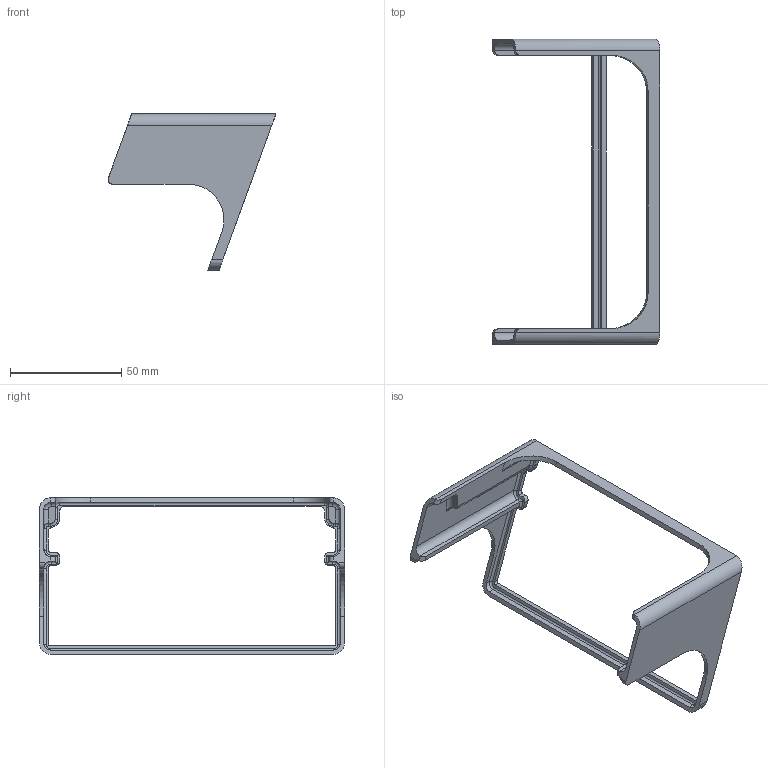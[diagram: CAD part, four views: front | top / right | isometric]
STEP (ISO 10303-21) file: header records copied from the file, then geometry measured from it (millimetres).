
FILE_DESCRIPTION (( 'STEP AP214' ), '1' );
FILE_NAME ('20_deg_enclosure_stand_taller.STEP', '2024-11-22T05:07:06', ( '' ), ( '' ), 'SwSTEP 2.0', 'SolidWorks 2018', '' );
FILE_SCHEMA (( 'AUTOMOTIVE_DESIGN' ));
Length unit declared in the file: millimetre
Products named in the file (1): 20_deg_enclosure_stand_taller
Bounding box: 75.31 x 136.9 x 70.18 mm (x, y, z)
Volume: 21057.5 mm3; surface area: 17605.7 mm2
Topology: 1 solids, 1 shells, 124 faces, 334 edges, 212 vertices
Faces by surface type: cylinder 52, plane 46, bspline 24, torus 2
Entity records: 4416 total; most frequent: CARTESIAN_POINT 1577, ORIENTED_EDGE 668, DIRECTION 496, EDGE_CURVE 334, VERTEX_POINT 212, LINE 186, VECTOR 186, AXIS2_PLACEMENT_3D 155
